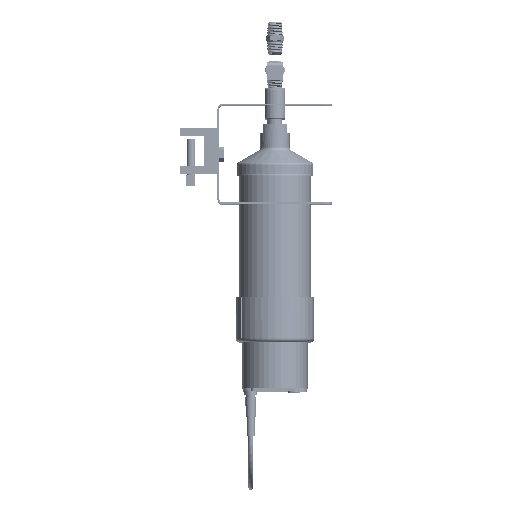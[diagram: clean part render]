
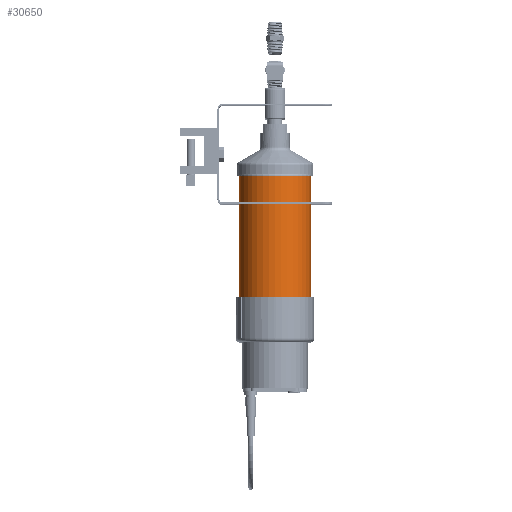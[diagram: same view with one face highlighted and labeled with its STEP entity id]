
A CAD part, top view. The second image highlights one B-rep face of the part: STEP entity #30650.
In plain terms, the highlighted cylindrical face has radius 31.623 mm (diameter 63.246 mm), a partial arc.
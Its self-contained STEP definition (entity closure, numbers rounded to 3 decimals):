
#30286=DIRECTION('',(0.,-1.,0.));
#30287=VECTOR('',#30286,106.581);
#30288=CARTESIAN_POINT('',(-31.623,-17.272,0.));
#30289=LINE('',#30288,#30287);
#30290=CARTESIAN_POINT('',(0.,-17.272,0.));
#30291=DIRECTION('',(0.,1.,0.));
#30292=DIRECTION('',(-1.,0.,0.));
#30293=AXIS2_PLACEMENT_3D('',#30290,#30291,#30292);
#30295=DIRECTION('',(0.,-1.,0.));
#30296=VECTOR('',#30295,106.581);
#30297=CARTESIAN_POINT('',(31.623,-17.272,0.));
#30298=LINE('',#30297,#30296);
#30314=CARTESIAN_POINT('',(0.,-123.853,0.));
#30315=DIRECTION('',(0.,1.,0.));
#30316=DIRECTION('',(-1.,0.,0.));
#30317=AXIS2_PLACEMENT_3D('',#30314,#30315,#30316);
#30518=CARTESIAN_POINT('',(-31.623,-17.272,0.));
#30519=CARTESIAN_POINT('',(-31.623,-123.853,0.));
#30520=VERTEX_POINT('',#30518);
#30521=VERTEX_POINT('',#30519);
#30530=CARTESIAN_POINT('',(31.623,-17.272,0.));
#30531=CARTESIAN_POINT('',(31.623,-123.853,0.));
#30532=VERTEX_POINT('',#30530);
#30533=VERTEX_POINT('',#30531);
#30636=CARTESIAN_POINT('',(0.,0.,0.));
#30637=DIRECTION('',(0.,-1.,0.));
#30638=DIRECTION('',(-1.,0.,0.));
#30639=AXIS2_PLACEMENT_3D('',#30636,#30637,#30638);
#30640=CYLINDRICAL_SURFACE('',#30639,31.623);
#30642=ORIENTED_EDGE('',*,*,#30641,.F.);
#30643=ORIENTED_EDGE('',*,*,#30629,.T.);
#30645=ORIENTED_EDGE('',*,*,#30644,.T.);
#30647=ORIENTED_EDGE('',*,*,#30646,.F.);
#30648=EDGE_LOOP('',(#30642,#30643,#30645,#30647));
#30649=FACE_OUTER_BOUND('',#30648,.F.);
#30650=ADVANCED_FACE('',(#30649),#30640,.T.);
#30294=CIRCLE('',#30293,31.623);
#30318=CIRCLE('',#30317,31.623);
#30629=EDGE_CURVE('',#30520,#30532,#30294,.T.);
#30641=EDGE_CURVE('',#30520,#30521,#30289,.T.);
#30644=EDGE_CURVE('',#30532,#30533,#30298,.T.);
#30646=EDGE_CURVE('',#30521,#30533,#30318,.T.);
